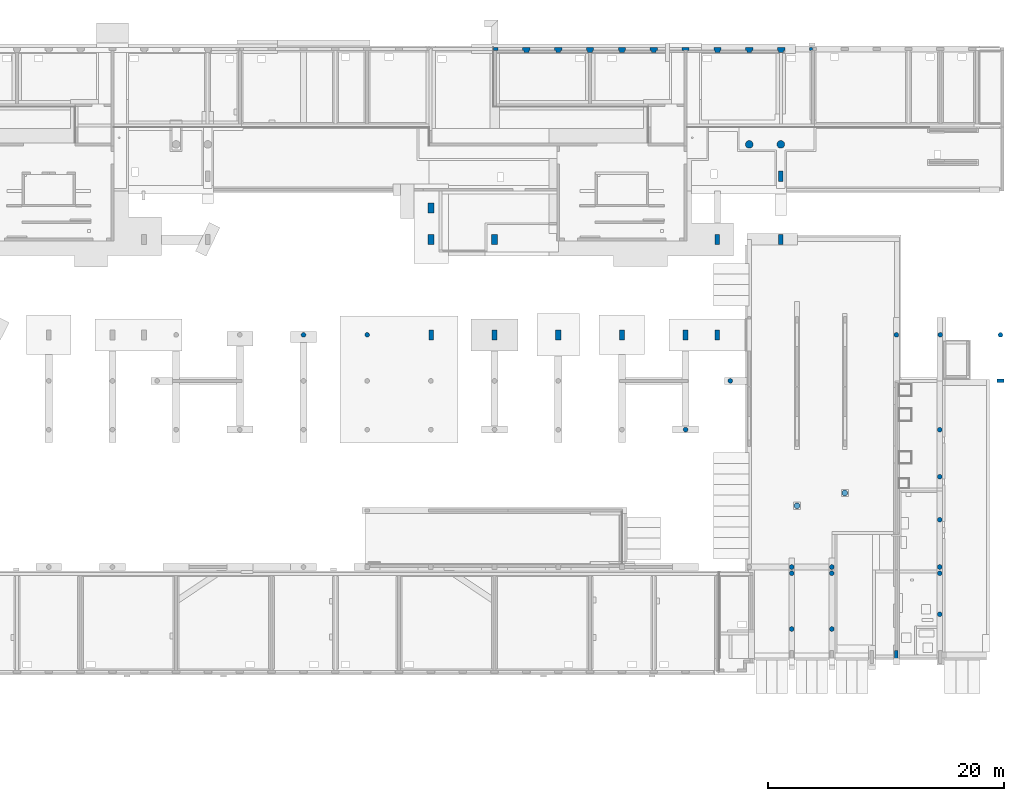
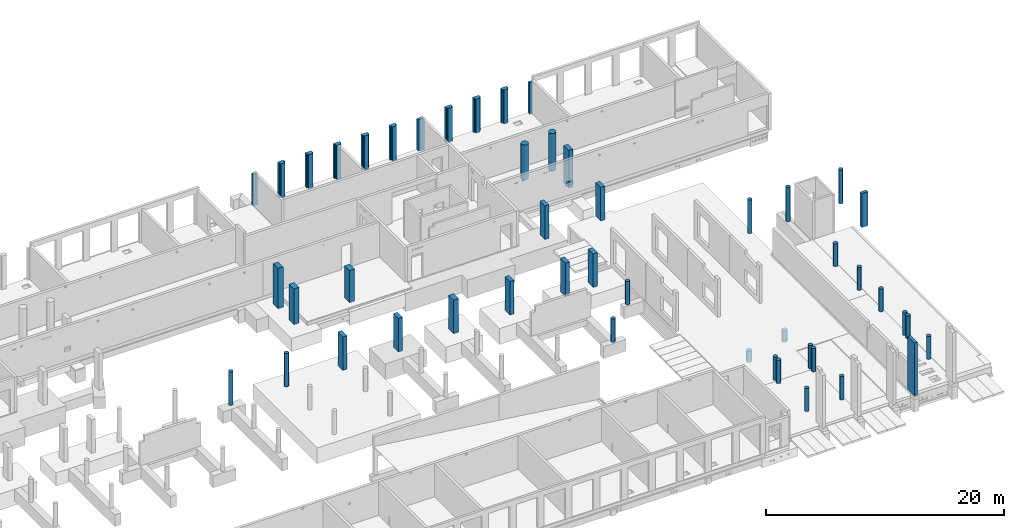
# One storey, part 15 of 60: 48 columns.
"""IFC2X3 building model written with IfcOpenShell, lengths in millimetres."""

from ifc_helpers import new_model, entity, si_unit, converted_unit, derived_unit, direction, frame, frame_2d, origin, origin_2d_with_axis, place, context, subcontext, project, spatial, polyline, rectangle, circle, outline, extrude, source, transform, mapped, material, type_object, type_shapes, element, save


model = new_model("IFC2X3")

# Units and contexts
model_context = context("Model", 3, precision=0.01, world=origin(), true_north=direction((6.12303176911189e-17, 1.0)))
body_context = subcontext(model_context, "Body", "Model", "MODEL_VIEW")
ifc_project = project(units=[si_unit("LENGTHUNIT", "METRE", prefix="MILLI"), si_unit("AREAUNIT", "SQUARE_METRE"), si_unit("VOLUMEUNIT", "CUBIC_METRE"), converted_unit("PLANEANGLEUNIT", "DEGREE", entity("IfcRatioMeasure", 0.0174532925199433), si_unit("PLANEANGLEUNIT", "RADIAN"), dimensions=[0, 0, 0, 0, 0, 0, 0]), si_unit("MASSUNIT", "GRAM", prefix="KILO"), derived_unit("MASSDENSITYUNIT", [(si_unit("MASSUNIT", "GRAM", prefix="KILO"), 1), (si_unit("LENGTHUNIT", "METRE"), -3)]), si_unit("TIMEUNIT", "SECOND"), si_unit("FREQUENCYUNIT", "HERTZ"), si_unit("THERMODYNAMICTEMPERATUREUNIT", "DEGREE_CELSIUS"), derived_unit("THERMALTRANSMITTANCEUNIT", [(si_unit("MASSUNIT", "GRAM", prefix="KILO"), 1), (si_unit("THERMODYNAMICTEMPERATUREUNIT", "KELVIN"), -1), (si_unit("TIMEUNIT", "SECOND"), -3)]), derived_unit("VOLUMETRICFLOWRATEUNIT", [(si_unit("LENGTHUNIT", "METRE"), 3), (si_unit("TIMEUNIT", "SECOND"), -1)]), si_unit("ELECTRICCURRENTUNIT", "AMPERE"), si_unit("ELECTRICVOLTAGEUNIT", "VOLT"), si_unit("POWERUNIT", "WATT"), si_unit("FORCEUNIT", "NEWTON", prefix="KILO"), si_unit("ILLUMINANCEUNIT", "LUX"), si_unit("LUMINOUSFLUXUNIT", "LUMEN"), si_unit("LUMINOUSINTENSITYUNIT", "CANDELA"), derived_unit("USERDEFINED", [(si_unit("MASSUNIT", "GRAM", prefix="KILO"), -1), (si_unit("LENGTHUNIT", "METRE"), -2), (si_unit("TIMEUNIT", "SECOND"), 3), (si_unit("LUMINOUSFLUXUNIT", "LUMEN"), 1)]), derived_unit("LINEARVELOCITYUNIT", [(si_unit("LENGTHUNIT", "METRE"), 1), (si_unit("TIMEUNIT", "SECOND"), -1)]), si_unit("PRESSUREUNIT", "PASCAL"), derived_unit("USERDEFINED", [(si_unit("LENGTHUNIT", "METRE"), -2), (si_unit("MASSUNIT", "GRAM", prefix="KILO"), 1), (si_unit("TIMEUNIT", "SECOND"), -2)])], contexts=[model_context])

# Site, building, storey
site_placement = place(None, origin())
site = spatial("IfcSite", under=ifc_project, at=site_placement, Name="Default", CompositionType="ELEMENT")
building_placement = place(site_placement, origin())
building = spatial("IfcBuilding", under=site, at=building_placement, Name="niet gebruiken", CompositionType="ELEMENT")
storey_placement = place(building_placement, origin())
storey = spatial("IfcBuildingStorey", under=building, at=storey_placement, Name="00 begane grond", CompositionType="ELEMENT", Elevation=0.0)

# Columns
ifc_material_1 = material(Name="NLRS_f2_beton prefab")
column_type_1 = type_object("IfcColumnType", Name="400x850", PredefinedType="COLUMN", material=ifc_material_1)
shared_shape_1 = source(origin(), body_context, "Body", "SweptSolid", [
    extrude(rectangle(XDim=850.0, YDim=400.0, at=origin_2d_with_axis()), frame((0.0, 0.0, -170.0), z_axis=(0.0, 0.0, 1.0), x_axis=(0.0, -1.0, 0.0)), (0.0, 0.0, 1.0), 3430.0),
])
type_shapes(column_type_1, [shared_shape_1])
for number, where, name in (
    (1, (75625.0, 28881.0, 0.0), "NLRS_28. kolom vierkant_gen:400x850"),
    (2, (81000.0, 28881.0, 0.0), "NLRS_28. kolom vierkant_gen:400x850"),
    (3, (91800.0, 28881.0, 0.0), "NLRS_28. kolom vierkant_gen:400x850"),
    (4, (97200.0, 28881.0, 0.0), "NLRS_28. kolom vierkant_gen:400x850"),
    (5, (99875.0, 28881.0, 0.0), "NLRS_28. kolom vierkant_gen:400x850"),
):
    element("IfcColumn", number, at=place(storey_placement, frame(where)), inside=storey, type_object=column_type_1, material=ifc_material_1, Name=name, ObjectType="400x850", context=body_context, shape_type="MappedRepresentation", body=[
        mapped(shared_shape_1, transform((0.0, 0.0, 0.0), scale=1.0)),
    ])
for number, where, z_axis, x_axis, name in (
    (6, (99875.0, 36981.0, 0.0), (0.0, 0.0, 1.0), (-1.0, 0.0, 0.0), "NLRS_28. kolom vierkant_gen:400x850"),
    (7, (105275.0, 36981.0, 0.0), (0.0, 0.0, 1.0), (-1.0, 0.0, 0.0), "NLRS_28. kolom vierkant_gen:400x850"),
):
    element("IfcColumn", number, at=place(storey_placement, frame(where, z_axis=z_axis, x_axis=x_axis)), inside=storey, type_object=column_type_1, material=ifc_material_1, Name=name, ObjectType="400x850", context=body_context, shape_type="MappedRepresentation", body=[
        mapped(shared_shape_1, transform((0.0, 0.0, 0.0), scale=1.0)),
    ])
column_type_2 = type_object("IfcColumnType", Name="ø400", PredefinedType="COLUMN", material=ifc_material_1)
shared_shape_2 = source(origin(), body_context, "Body", "SweptSolid", [
    extrude(circle(Radius=200.0, at=frame_2d((1.69197988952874e-14, -3.02923644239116e-13), x_axis=(1.0, 0.0))), frame((0.0, 0.0, -170.0)), (0.0, 0.0, 1.0), 2390.00000000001),
])
type_shapes(column_type_2, [shared_shape_2])
for number, where in (
    (8, (100990.0, 24976.0, 0.0)),
    (9, (97200.0, 20846.0, 0.0)),
    (10, (109600.0, 9196.0, 0.0)),
    (11, (106200.0, 9196.0, 0.0)),
):
    element("IfcColumn", number, at=place(storey_placement, frame(where)), inside=storey, type_object=column_type_2, material=ifc_material_1, Name="NLRS_28. kolom rond_gen:ø400", ObjectType="ø400", context=body_context, shape_type="MappedRepresentation", body=[
        mapped(shared_shape_2, transform((0.0, 0.0, 0.0), scale=1.0)),
    ])
column_type_3 = type_object("IfcColumnType", Name="500x850", PredefinedType="COLUMN", material=ifc_material_1)
shared_shape_3 = source(origin(), body_context, "Body", "SweptSolid", [
    extrude(rectangle(XDim=850.0, YDim=500.0, at=origin_2d_with_axis()), frame((0.0, 0.0, -170.0), z_axis=(0.0, 0.0, 1.0), x_axis=(0.0, -1.0, 0.0)), (0.0, 0.0, 1.0), 3430.0),
])
type_shapes(column_type_3, [shared_shape_3])
column_1_placement = place(storey_placement, frame((86400.0, 28881.0, 0.0)))
element("IfcColumn", 12, at=column_1_placement, inside=storey, type_object=column_type_3, material=ifc_material_1, Name="NLRS_28. kolom vierkant_gen:500x850", ObjectType="500x850", context=body_context, shape_type="MappedRepresentation", body=[
    mapped(shared_shape_3, transform((0.0, 0.0, 0.0), scale=1.0)),
])
column_type_4 = type_object("IfcColumnType", Name="500x850", PredefinedType="COLUMN", material=ifc_material_1)
shared_shape_4 = source(origin(), body_context, "Body", "SweptSolid", [
    extrude(rectangle(XDim=850.0, YDim=500.0, at=origin_2d_with_axis()), frame((0.0, 0.0, -40.0), z_axis=(0.0, 0.0, 1.0), x_axis=(0.0, -1.0, 0.0)), (0.0, 0.0, 1.0), 3300.0),
])
type_shapes(column_type_4, [shared_shape_4])
column_2_placement = place(storey_placement, frame((81000.0, 36981.0, 0.0), z_axis=(0.0, 0.0, 1.0), x_axis=(-1.0, 0.0, 0.0)))
element("IfcColumn", 13, at=column_2_placement, inside=storey, type_object=column_type_4, material=ifc_material_1, Name="NLRS_28. kolom vierkant_gen:500x850", ObjectType="500x850", context=body_context, shape_type="MappedRepresentation", body=[
    mapped(shared_shape_4, transform((0.0, 0.0, 0.0), scale=1.0)),
])
column_type_5 = type_object("IfcColumnType", Name="ø400", PredefinedType="COLUMN", material=ifc_material_1)
shared_shape_5 = source(origin(), body_context, "Body", "SweptSolid", [
    extrude(circle(Radius=200.0, at=frame_2d((1.69197988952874e-14, -3.02923644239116e-13), x_axis=(1.0, 0.0))), frame((0.0, 0.0, -170.0)), (0.0, 0.0, 1.0), 3430.0),
])
type_shapes(column_type_5, [shared_shape_5])
for number, where in (
    (14, (64800.0, 28881.0, 0.0)),
    (15, (70200.0, 28881.0, 0.0)),
    (16, (115075.0, 28881.0, 0.0)),
):
    element("IfcColumn", number, at=place(storey_placement, frame(where)), inside=storey, type_object=column_type_5, material=ifc_material_1, Name="NLRS_28. kolom rond_gen:ø400", ObjectType="ø400", context=body_context, shape_type="MappedRepresentation", body=[
        mapped(shared_shape_5, transform((0.0, 0.0, 0.0), scale=1.0)),
    ])
column_type_6 = type_object("IfcColumnType", Name="ø650", PredefinedType="COLUMN", material=ifc_material_1)
shared_shape_6 = source(origin(), body_context, "Body", "SweptSolid", [
    extrude(circle(Radius=325.0, at=frame_2d((3.38395977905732e-14, 4.90135947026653e-13), x_axis=(1.0, 0.0))), frame((0.0, 0.0, -40.0), z_axis=(0.0, 0.0, 1.0), x_axis=(-1.0, 0.0, 0.0)), (0.0, 0.0, 1.0), 3850.00000000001),
])
type_shapes(column_type_6, [shared_shape_6])
column_3_placement = place(storey_placement, frame((105275.0, 45031.0, 0.0)))
element("IfcColumn", 17, at=column_3_placement, inside=storey, type_object=column_type_6, material=ifc_material_1, Name="NLRS_28. kolom rond_gen:ø650", ObjectType="ø650", context=body_context, shape_type="MappedRepresentation", body=[
    mapped(shared_shape_6, transform((0.0, 0.0, 0.0), scale=1.0)),
])
column_type_7 = type_object("IfcColumnType", Name="ø650", PredefinedType="COLUMN", material=ifc_material_1)
shared_shape_7 = source(origin(), body_context, "Body", "SweptSolid", [
    extrude(circle(Radius=325.0, at=frame_2d((3.38395977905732e-14, 4.90135947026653e-13), x_axis=(1.0, 0.0))), frame((0.0, 0.0, -40.0), z_axis=(0.0, 0.0, 1.0), x_axis=(-1.0, 0.0, 0.0)), (0.0, 0.0, 1.0), 3600.0),
])
type_shapes(column_type_7, [shared_shape_7])
column_4_placement = place(storey_placement, frame((102600.0, 45031.0, 0.0)))
element("IfcColumn", 18, at=column_4_placement, inside=storey, type_object=column_type_7, material=ifc_material_1, Name="NLRS_28. kolom rond_gen:ø650", ObjectType="ø650", context=body_context, shape_type="MappedRepresentation", body=[
    mapped(shared_shape_7, transform((0.0, 0.0, 0.0), scale=1.0)),
])
column_type_8 = type_object("IfcColumnType", Name="ø400", PredefinedType="COLUMN", material=ifc_material_1)
shared_shape_8 = source(origin(), body_context, "Body", "SweptSolid", [
    extrude(circle(Radius=200.0, at=frame_2d((1.69197988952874e-14, -3.02923644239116e-13), x_axis=(1.0, 0.0))), frame((0.0, 0.0, -270.0)), (0.0, 0.0, 1.0), 3530.0),
])
type_shapes(column_type_8, [shared_shape_8])
column_5_placement = place(storey_placement, frame((118800.0, 28881.0, 0.0)))
element("IfcColumn", 19, at=column_5_placement, inside=storey, type_object=column_type_8, material=ifc_material_1, Name="NLRS_28. kolom rond_gen:ø400", ObjectType="ø400", context=body_context, shape_type="MappedRepresentation", body=[
    mapped(shared_shape_8, transform((0.0, 0.0, 0.0), scale=1.0)),
])
column_type_9 = type_object("IfcColumnType", Name="ø400", PredefinedType="COLUMN", material=ifc_material_1)
shared_shape_9 = source(origin(), body_context, "Body", "SweptSolid", [
    extrude(circle(Radius=200.0, at=frame_2d((1.69197988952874e-14, -3.02923644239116e-13), x_axis=(1.0, 0.0))), frame((0.0, 0.0, -220.0)), (0.0, 0.0, 1.0), 3480.0),
])
type_shapes(column_type_9, [shared_shape_9])
column_6_placement = place(storey_placement, frame((123900.0, 28881.0, 0.0)))
element("IfcColumn", 20, at=column_6_placement, inside=storey, type_object=column_type_9, material=ifc_material_1, Name="NLRS_28. kolom rond_gen:ø400", ObjectType="ø400", context=body_context, shape_type="MappedRepresentation", body=[
    mapped(shared_shape_9, transform((0.0, 0.0, 0.0), scale=1.0)),
])
ifc_material_2 = material(Name="NLRS_f2_beton ihwg")
column_type_10 = type_object("IfcColumnType", Name="620x410/105x160/105x160", PredefinedType="COLUMN", material=ifc_material_2)
shared_shape_10 = source(origin(), body_context, "Body", "SweptSolid", [
    extrude(outline(polyline([(-227.5, -310.0), (22.4999999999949, -310.0), (22.4999999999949, -205.0), (182.499999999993, -205.0), (182.499999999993, 205.0), (22.4999999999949, 205.0), (22.4999999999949, 310.0), (-227.5, 310.0), (-227.5, -310.0)])), frame((102600.0, 53028.4999999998, -160.0), z_axis=(0.0, 0.0, 1.0), x_axis=(0.0, -1.0, 0.0)), (0.0, 0.0, 1.0), 3510.00000000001),
])
type_shapes(column_type_10, [shared_shape_10])
column_7_placement = place(storey_placement, origin())
element("IfcColumn", 21, at=column_7_placement, inside=storey, type_object=column_type_10, material=ifc_material_2, Name="NLRS_28.11_SCO_TLB_beton kolom ihwg dubbele sponning_gen:620x410/105x160/105x160", ObjectType="620x410/105x160/105x160", context=body_context, shape_type="MappedRepresentation", body=[
    mapped(shared_shape_10, transform((0.0, 0.0, 0.0), scale=1.0)),
])
column_type_11 = type_object("IfcColumnType", Name="620x410/105x160/105x160", PredefinedType="COLUMN", material=ifc_material_2)
shared_shape_11 = source(origin(), body_context, "Body", "SweptSolid", [
    extrude(outline(polyline([(-227.499999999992, -310.0), (22.5000000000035, -310.0), (22.5000000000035, -205.0), (182.500000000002, -205.0), (182.500000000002, 205.0), (22.5000000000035, 205.0), (22.5000000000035, 310.0), (-227.499999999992, 310.0), (-227.499999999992, -310.0)])), frame((99900.0, 53028.4999999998, -160.0), z_axis=(0.0, 0.0, 1.0), x_axis=(0.0, -1.0, 0.0)), (0.0, 0.0, 1.0), 3510.00000000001),
])
type_shapes(column_type_11, [shared_shape_11])
column_8_placement = place(storey_placement, origin())
element("IfcColumn", 22, at=column_8_placement, inside=storey, type_object=column_type_11, material=ifc_material_2, Name="NLRS_28.11_SCO_TLB_beton kolom ihwg dubbele sponning_gen:620x410/105x160/105x160", ObjectType="620x410/105x160/105x160", context=body_context, shape_type="MappedRepresentation", body=[
    mapped(shared_shape_11, transform((0.0, 0.0, 0.0), scale=1.0)),
])
column_type_12 = type_object("IfcColumnType", Name="620x410/105x160/105x160", PredefinedType="COLUMN", material=ifc_material_2)
shared_shape_12 = source(origin(), body_context, "Body", "SweptSolid", [
    extrude(outline(polyline([(-227.499999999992, -310.0), (22.5000000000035, -310.0), (22.5000000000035, -205.0), (182.500000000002, -205.0), (182.500000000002, 205.0), (22.5000000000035, 205.0), (22.5000000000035, 310.0), (-227.499999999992, 310.0), (-227.499999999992, -310.0)])), frame((94500.0, 53028.4999999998, -160.0), z_axis=(0.0, 0.0, 1.0), x_axis=(0.0, -1.0, 0.0)), (0.0, 0.0, 1.0), 3510.00000000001),
])
type_shapes(column_type_12, [shared_shape_12])
column_9_placement = place(storey_placement, origin())
element("IfcColumn", 23, at=column_9_placement, inside=storey, type_object=column_type_12, material=ifc_material_2, Name="NLRS_28.11_SCO_TLB_beton kolom ihwg dubbele sponning_gen:620x410/105x160/105x160", ObjectType="620x410/105x160/105x160", context=body_context, shape_type="MappedRepresentation", body=[
    mapped(shared_shape_12, transform((0.0, 0.0, 0.0), scale=1.0)),
])
column_type_13 = type_object("IfcColumnType", Name="620x410/105x160/105x160", PredefinedType="COLUMN", material=ifc_material_2)
shared_shape_13 = source(origin(), body_context, "Body", "SweptSolid", [
    extrude(outline(polyline([(-227.499999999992, -310.0), (22.5000000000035, -310.0), (22.5000000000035, -205.0), (182.500000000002, -205.0), (182.500000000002, 205.0), (22.5000000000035, 205.0), (22.5000000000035, 310.0), (-227.499999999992, 310.0), (-227.499999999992, -310.0)])), frame((91800.0, 53028.4999999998, -160.0), z_axis=(0.0, 0.0, 1.0), x_axis=(0.0, -1.0, 0.0)), (0.0, 0.0, 1.0), 3510.00000000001),
])
type_shapes(column_type_13, [shared_shape_13])
column_10_placement = place(storey_placement, origin())
element("IfcColumn", 24, at=column_10_placement, inside=storey, type_object=column_type_13, material=ifc_material_2, Name="NLRS_28.11_SCO_TLB_beton kolom ihwg dubbele sponning_gen:620x410/105x160/105x160", ObjectType="620x410/105x160/105x160", context=body_context, shape_type="MappedRepresentation", body=[
    mapped(shared_shape_13, transform((0.0, 0.0, 0.0), scale=1.0)),
])
column_type_14 = type_object("IfcColumnType", Name="620x410/105x160/105x160", PredefinedType="COLUMN", material=ifc_material_2)
shared_shape_14 = source(origin(), body_context, "Body", "SweptSolid", [
    extrude(outline(polyline([(-227.499999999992, -310.0), (22.5000000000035, -310.0), (22.5000000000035, -205.0), (182.500000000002, -205.0), (182.500000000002, 205.0), (22.5000000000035, 205.0), (22.5000000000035, 310.0), (-227.499999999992, 310.0), (-227.499999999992, -310.0)])), frame((89100.0, 53028.4999999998, -160.0), z_axis=(0.0, 0.0, 1.0), x_axis=(0.0, -1.0, 0.0)), (0.0, 0.0, 1.0), 3510.00000000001),
])
type_shapes(column_type_14, [shared_shape_14])
column_11_placement = place(storey_placement, origin())
element("IfcColumn", 25, at=column_11_placement, inside=storey, type_object=column_type_14, material=ifc_material_2, Name="NLRS_28.11_SCO_TLB_beton kolom ihwg dubbele sponning_gen:620x410/105x160/105x160", ObjectType="620x410/105x160/105x160", context=body_context, shape_type="MappedRepresentation", body=[
    mapped(shared_shape_14, transform((0.0, 0.0, 0.0), scale=1.0)),
])
column_type_15 = type_object("IfcColumnType", Name="620x410/105x160/105x160", PredefinedType="COLUMN", material=ifc_material_2)
shared_shape_15 = source(origin(), body_context, "Body", "SweptSolid", [
    extrude(outline(polyline([(-227.5, -310.0), (22.4999999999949, -310.0), (22.4999999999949, -205.0), (182.499999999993, -205.0), (182.499999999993, 205.0), (22.4999999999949, 205.0), (22.4999999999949, 310.0), (-227.5, 310.0), (-227.5, -310.0)])), frame((83700.0, 53028.4999999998, -160.0), z_axis=(0.0, 0.0, 1.0), x_axis=(0.0, -1.0, 0.0)), (0.0, 0.0, 1.0), 3510.00000000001),
])
type_shapes(column_type_15, [shared_shape_15])
column_12_placement = place(storey_placement, origin())
element("IfcColumn", 26, at=column_12_placement, inside=storey, type_object=column_type_15, material=ifc_material_2, Name="NLRS_28.11_SCO_TLB_beton kolom ihwg dubbele sponning_gen:620x410/105x160/105x160", ObjectType="620x410/105x160/105x160", context=body_context, shape_type="MappedRepresentation", body=[
    mapped(shared_shape_15, transform((0.0, 0.0, 0.0), scale=1.0)),
])
column_type_16 = type_object("IfcColumnType", Name="620x410/105x160/105x160", PredefinedType="COLUMN", material=ifc_material_2)
shared_shape_16 = source(origin(), body_context, "Body", "SweptSolid", [
    extrude(outline(polyline([(-227.5, -310.0), (22.4999999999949, -310.0), (22.4999999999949, -205.0), (182.499999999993, -205.0), (182.499999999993, 205.0), (22.4999999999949, 205.0), (22.4999999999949, 310.0), (-227.5, 310.0), (-227.5, -310.0)])), frame((105300.0, 53028.4999999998, -160.0), z_axis=(0.0, 0.0, 1.0), x_axis=(0.0, -1.0, 0.0)), (0.0, 0.0, 1.0), 3510.00000000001),
])
type_shapes(column_type_16, [shared_shape_16])
column_13_placement = place(storey_placement, origin())
element("IfcColumn", 27, at=column_13_placement, inside=storey, type_object=column_type_16, material=ifc_material_2, Name="NLRS_28.11_SCO_TLB_beton kolom ihwg dubbele sponning_gen:620x410/105x160/105x160", ObjectType="620x410/105x160/105x160", context=body_context, shape_type="MappedRepresentation", body=[
    mapped(shared_shape_16, transform((0.0, 0.0, 0.0), scale=1.0)),
])
column_type_17 = type_object("IfcColumnType", Name="410x250", PredefinedType="COLUMN", material=ifc_material_2)
shared_shape_17 = source(origin(), body_context, "Body", "SweptSolid", [
    extrude(rectangle(XDim=250.000000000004, YDim=409.999999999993, at=origin_2d_with_axis()), frame((81105.0, 53131.0, -160.0), z_axis=(0.0, 0.0, 1.0), x_axis=(0.0, -1.0, 0.0)), (0.0, 0.0, 1.0), 3230.00000000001),
])
type_shapes(column_type_17, [shared_shape_17])
column_14_placement = place(storey_placement, origin())
element("IfcColumn", 28, at=column_14_placement, inside=storey, type_object=column_type_17, material=ifc_material_2, Name="NLRS_28.11_SCO_TLB_beton kolom ihwg_gen:410x250", ObjectType="410x250", context=body_context, shape_type="MappedRepresentation", body=[
    mapped(shared_shape_17, transform((0.0, 0.0, 0.0), scale=1.0)),
])
column_type_18 = type_object("IfcColumnType", Name="620x250", PredefinedType="COLUMN", material=ifc_material_2)
shared_shape_18 = source(origin(), body_context, "Body", "SweptSolid", [
    extrude(rectangle(XDim=250.000000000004, YDim=619.999999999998, at=frame_2d((8.66151594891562e-12, 0.0), x_axis=(1.0, 0.0))), frame((97200.0, 53131.0, -160.0), z_axis=(0.0, 0.0, 1.0), x_axis=(0.0, -1.0, 0.0)), (0.0, 0.0, 1.0), 3230.00000000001),
])
type_shapes(column_type_18, [shared_shape_18])
column_15_placement = place(storey_placement, origin())
element("IfcColumn", 29, at=column_15_placement, inside=storey, type_object=column_type_18, material=ifc_material_2, Name="NLRS_28.11_SCO_TLB_beton kolom ihwg_gen:620x250", ObjectType="620x250", context=body_context, shape_type="MappedRepresentation", body=[
    mapped(shared_shape_18, transform((0.0, 0.0, 0.0), scale=1.0)),
])
column_type_19 = type_object("IfcColumnType", Name="620x410/105x160/105x160", PredefinedType="COLUMN", material=ifc_material_2)
shared_shape_19 = source(origin(), body_context, "Body", "SweptSolid", [
    extrude(outline(polyline([(-227.499999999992, -310.0), (22.5000000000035, -310.0), (22.5000000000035, -205.0), (182.500000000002, -205.0), (182.500000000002, 205.0), (22.5000000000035, 205.0), (22.5000000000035, 310.0), (-227.499999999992, 310.0), (-227.499999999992, -310.0)])), frame((86400.0, 53028.4999999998, -160.0), z_axis=(0.0, 0.0, 1.0), x_axis=(0.0, -1.0, 0.0)), (0.0, 0.0, 1.0), 3510.00000000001),
])
type_shapes(column_type_19, [shared_shape_19])
column_16_placement = place(storey_placement, origin())
element("IfcColumn", 30, at=column_16_placement, inside=storey, type_object=column_type_19, material=ifc_material_2, Name="NLRS_28.11_SCO_TLB_beton kolom ihwg dubbele sponning_gen:620x410/105x160/105x160", ObjectType="620x410/105x160/105x160", context=body_context, shape_type="MappedRepresentation", body=[
    mapped(shared_shape_19, transform((0.0, 0.0, 0.0), scale=1.0)),
])
column_type_20 = type_object("IfcColumnType", Name="300x600", PredefinedType="COLUMN", material=ifc_material_1)
shared_shape_20 = source(origin(), body_context, "Body", "SweptSolid", [
    extrude(rectangle(XDim=600.0, YDim=300.0, at=origin_2d_with_axis()), frame((0.0, 0.0, -220.0), z_axis=(0.0, 0.0, 1.0), x_axis=(0.0, -1.0, 0.0)), (0.0, 0.0, 1.0), 3480.0),
])
type_shapes(column_type_20, [shared_shape_20])
column_17_placement = place(storey_placement, frame((123900.0, 24976.0, 0.0), z_axis=(0.0, 0.0, 1.0), x_axis=(0.0, -1.0, 0.0)))
element("IfcColumn", 31, at=column_17_placement, inside=storey, type_object=column_type_20, material=ifc_material_1, Name="NLRS_28. kolom vierkant_gen1:300x600", ObjectType="300x600", context=body_context, shape_type="MappedRepresentation", body=[
    mapped(shared_shape_20, transform((0.0, 0.0, 0.0), scale=1.0)),
])
column_type_21 = type_object("IfcColumnType", Name="500x850", PredefinedType="COLUMN", material=ifc_material_1)
shared_shape_21 = source(origin(), body_context, "Body", "SweptSolid", [
    extrude(rectangle(XDim=850.0, YDim=500.0, at=origin_2d_with_axis()), frame((0.0, 0.0, -372.0), z_axis=(0.0, 0.0, 1.0), x_axis=(0.0, -1.0, 0.0)), (0.0, 0.0, 1.0), 3632.0),
])
type_shapes(column_type_21, [shared_shape_21])
column_18_placement = place(storey_placement, frame((75625.0, 36981.0, 0.0), z_axis=(0.0, 0.0, 1.0), x_axis=(-1.0, 0.0, 0.0)))
element("IfcColumn", 32, at=column_18_placement, inside=storey, type_object=column_type_21, material=ifc_material_1, Name="NLRS_28. kolom vierkant_gen:500x850", ObjectType="500x850", context=body_context, shape_type="MappedRepresentation", body=[
    mapped(shared_shape_21, transform((0.0, 0.0, 0.0), scale=1.0)),
])
column_type_22 = type_object("IfcColumnType", Name="400x850", PredefinedType="COLUMN", material=ifc_material_1)
shared_shape_22 = source(origin(), body_context, "Body", "SweptSolid", [
    extrude(rectangle(XDim=850.0, YDim=400.0, at=origin_2d_with_axis()), frame((0.0, 0.0, -40.0), z_axis=(0.0, 0.0, 1.0), x_axis=(0.0, -1.0, 0.0)), (0.0, 0.0, 1.0), 3850.00000000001),
])
type_shapes(column_type_22, [shared_shape_22])
column_19_placement = place(storey_placement, frame((105275.0, 42331.0, 0.0), z_axis=(0.0, 0.0, 1.0), x_axis=(-1.0, 0.0, 0.0)))
element("IfcColumn", 33, at=column_19_placement, inside=storey, type_object=column_type_22, material=ifc_material_1, Name="NLRS_28. kolom vierkant_gen:400x850", ObjectType="400x850", context=body_context, shape_type="MappedRepresentation", body=[
    mapped(shared_shape_22, transform((0.0, 0.0, 0.0), scale=1.0)),
])
column_type_23 = type_object("IfcColumnType", Name="500x850", PredefinedType="COLUMN", material=ifc_material_1)
shared_shape_23 = source(origin(), body_context, "Body", "SweptSolid", [
    extrude(rectangle(XDim=850.0, YDim=500.0, at=origin_2d_with_axis()), frame((0.0, 0.0, -372.0), z_axis=(0.0, 0.0, 1.0), x_axis=(0.0, -1.0, 0.0)), (0.0, 0.0, 1.0), 4112.0),
])
type_shapes(column_type_23, [shared_shape_23])
column_20_placement = place(storey_placement, frame((75625.0, 39656.0, 0.0), z_axis=(0.0, 0.0, 1.0), x_axis=(-1.0, 0.0, 0.0)))
element("IfcColumn", 34, at=column_20_placement, inside=storey, type_object=column_type_23, material=ifc_material_1, Name="NLRS_28. kolom vierkant_gen:500x850", ObjectType="500x850", context=body_context, shape_type="MappedRepresentation", body=[
    mapped(shared_shape_23, transform((0.0, 0.0, 0.0), scale=1.0)),
])
column_type_24 = type_object("IfcColumnType", Name="ø400", PredefinedType="COLUMN", material=ifc_material_1)
shared_shape_24 = source(origin(), body_context, "Body", "SweptSolid", [
    extrude(circle(Radius=199.999999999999, at=frame_2d((-5.41433564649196e-13, 0.0), x_axis=(1.0, 0.0))), frame((106200.0, 3940.0, -170.0), z_axis=(0.0, 0.0, 1.0), x_axis=(0.0, -1.0, 0.0)), (0.0, 0.0, 1.0), 2360.0),
])
type_shapes(column_type_24, [shared_shape_24])
column_21_placement = place(storey_placement, origin())
element("IfcColumn", 35, at=column_21_placement, inside=storey, type_object=column_type_24, material=ifc_material_1, Name="NLRS_28. kolom rond_gen:ø400", ObjectType="ø400", context=body_context, shape_type="MappedRepresentation", body=[
    mapped(shared_shape_24, transform((0.0, 0.0, 0.0), scale=1.0)),
])
column_type_25 = type_object("IfcColumnType", Name="ø400", PredefinedType="COLUMN", material=ifc_material_1)
shared_shape_25 = source(origin(), body_context, "Body", "SweptSolid", [
    extrude(circle(Radius=199.999999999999, at=frame_2d((-5.41433564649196e-13, 0.0), x_axis=(1.0, 0.0))), frame((109600.0, 3940.0, -170.0), z_axis=(0.0, 0.0, 1.0), x_axis=(0.0, -1.0, 0.0)), (0.0, 0.0, 1.0), 2390.00000000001),
])
type_shapes(column_type_25, [shared_shape_25])
column_22_placement = place(storey_placement, origin())
element("IfcColumn", 36, at=column_22_placement, inside=storey, type_object=column_type_25, material=ifc_material_1, Name="NLRS_28. kolom rond_gen:ø400", ObjectType="ø400", context=body_context, shape_type="MappedRepresentation", body=[
    mapped(shared_shape_25, transform((0.0, 0.0, 0.0), scale=1.0)),
])
column_type_26 = type_object("IfcColumnType", Name="300x1100", PredefinedType="COLUMN", material=ifc_material_1)
shared_shape_26 = source(origin(), body_context, "Body", "SweptSolid", [
    extrude(rectangle(XDim=1100.0, YDim=300.000000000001, at=frame_2d((-1.70530256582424e-13, 0.0), x_axis=(1.0, 0.0))), frame((115075.0, 1550.0, 30.0), z_axis=(0.0, 0.0, 1.0), x_axis=(0.0, -1.0, 0.0)), (0.0, 0.0, 1.0), 5420.0),
])
type_shapes(column_type_26, [shared_shape_26])
column_23_placement = place(storey_placement, origin())
element("IfcColumn", 37, at=column_23_placement, inside=storey, type_object=column_type_26, material=ifc_material_1, Name="NLRS_28. kolom vierkant_gen1:300x1100", ObjectType="300x1100", context=body_context, shape_type="MappedRepresentation", body=[
    mapped(shared_shape_26, transform((0.0, 0.0, 0.0), scale=1.0)),
])
column_type_27 = type_object("IfcColumnType", Name="ø400", PredefinedType="COLUMN", material=ifc_material_1)
shared_shape_27 = source(origin(), body_context, "Body", "SweptSolid", [
    extrude(circle(Radius=199.999999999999, at=origin_2d_with_axis()), frame((109600.0, 8671.0, -170.0), z_axis=(0.0, 0.0, 1.0), x_axis=(0.0, -1.0, 0.0)), (0.0, 0.0, 1.0), 2390.00000000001),
])
type_shapes(column_type_27, [shared_shape_27])
column_24_placement = place(storey_placement, origin())
element("IfcColumn", 38, at=column_24_placement, inside=storey, type_object=column_type_27, material=ifc_material_1, Name="NLRS_28. kolom rond_gen:ø400", ObjectType="ø400", context=body_context, shape_type="MappedRepresentation", body=[
    mapped(shared_shape_27, transform((0.0, 0.0, 0.0), scale=1.0)),
])
column_type_28 = type_object("IfcColumnType", Name="ø400", PredefinedType="COLUMN", material=ifc_material_1)
shared_shape_28 = source(origin(), body_context, "Body", "SweptSolid", [
    extrude(circle(Radius=199.999999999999, at=origin_2d_with_axis()), frame((106200.0, 8671.0, -170.0), z_axis=(0.0, 0.0, 1.0), x_axis=(0.0, -1.0, 0.0)), (0.0, 0.0, 1.0), 2390.00000000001),
])
type_shapes(column_type_28, [shared_shape_28])
column_25_placement = place(storey_placement, origin())
element("IfcColumn", 39, at=column_25_placement, inside=storey, type_object=column_type_28, material=ifc_material_1, Name="NLRS_28. kolom rond_gen:ø400", ObjectType="ø400", context=body_context, shape_type="MappedRepresentation", body=[
    mapped(shared_shape_28, transform((0.0, 0.0, 0.0), scale=1.0)),
])
column_type_29 = type_object("IfcColumnType", Name="ø400", PredefinedType="COLUMN", material=ifc_material_1)
shared_shape_29 = source(origin(), body_context, "Body", "SweptSolid", [
    extrude(circle(Radius=199.999999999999, at=origin_2d_with_axis()), frame((118750.0, 8671.0, 30.0), z_axis=(0.0, 0.0, 1.0), x_axis=(0.0, -1.0, 0.0)), (0.0, 0.0, 1.0), 2335.00000000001),
])
type_shapes(column_type_29, [shared_shape_29])
column_26_placement = place(storey_placement, origin())
element("IfcColumn", 40, at=column_26_placement, inside=storey, type_object=column_type_29, material=ifc_material_1, Name="NLRS_28. kolom rond_gen:ø400", ObjectType="ø400", context=body_context, shape_type="MappedRepresentation", body=[
    mapped(shared_shape_29, transform((0.0, 0.0, 0.0), scale=1.0)),
])
column_type_30 = type_object("IfcColumnType", Name="ø400", PredefinedType="COLUMN", material=ifc_material_1)
shared_shape_30 = source(origin(), body_context, "Body", "SweptSolid", [
    extrude(circle(Radius=199.999999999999, at=origin_2d_with_axis()), frame((118750.0, 9196.0, 30.0), z_axis=(0.0, 0.0, 1.0), x_axis=(0.0, -1.0, 0.0)), (0.0, 0.0, 1.0), 2335.00000000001),
])
type_shapes(column_type_30, [shared_shape_30])
column_27_placement = place(storey_placement, origin())
element("IfcColumn", 41, at=column_27_placement, inside=storey, type_object=column_type_30, material=ifc_material_1, Name="NLRS_28. kolom rond_gen:ø400", ObjectType="ø400", context=body_context, shape_type="MappedRepresentation", body=[
    mapped(shared_shape_30, transform((0.0, 0.0, 0.0), scale=1.0)),
])
column_type_31 = type_object("IfcColumnType", Name="ø400", PredefinedType="COLUMN", material=ifc_material_1)
shared_shape_31 = source(origin(), body_context, "Body", "SweptSolid", [
    extrude(circle(Radius=199.999999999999, at=origin_2d_with_axis()), frame((118750.0, 5196.0, 30.0), z_axis=(0.0, 0.0, 1.0), x_axis=(0.0, -1.0, 0.0)), (0.0, 0.0, 1.0), 2335.00000000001),
])
type_shapes(column_type_31, [shared_shape_31])
column_28_placement = place(storey_placement, origin())
element("IfcColumn", 42, at=column_28_placement, inside=storey, type_object=column_type_31, material=ifc_material_1, Name="NLRS_28. kolom rond_gen:ø400", ObjectType="ø400", context=body_context, shape_type="MappedRepresentation", body=[
    mapped(shared_shape_31, transform((0.0, 0.0, 0.0), scale=1.0)),
])
column_type_32 = type_object("IfcColumnType", Name="ø400", PredefinedType="COLUMN", material=ifc_material_1)
shared_shape_32 = source(origin(), body_context, "Body", "SweptSolid", [
    extrude(circle(Radius=199.999999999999, at=origin_2d_with_axis()), frame((118750.0, 13196.0, 30.0), z_axis=(0.0, 0.0, 1.0), x_axis=(0.0, -1.0, 0.0)), (0.0, 0.0, 1.0), 2335.00000000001),
])
type_shapes(column_type_32, [shared_shape_32])
column_29_placement = place(storey_placement, origin())
element("IfcColumn", 43, at=column_29_placement, inside=storey, type_object=column_type_32, material=ifc_material_1, Name="NLRS_28. kolom rond_gen:ø400", ObjectType="ø400", context=body_context, shape_type="MappedRepresentation", body=[
    mapped(shared_shape_32, transform((0.0, 0.0, 0.0), scale=1.0)),
])
column_type_33 = type_object("IfcColumnType", Name="ø400", PredefinedType="COLUMN", material=ifc_material_1)
shared_shape_33 = source(origin(), body_context, "Body", "SweptSolid", [
    extrude(circle(Radius=199.999999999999, at=origin_2d_with_axis()), frame((118750.0, 16846.0, 30.0), z_axis=(0.0, 0.0, 1.0), x_axis=(0.0, -1.0, 0.0)), (0.0, 0.0, 1.0), 2335.00000000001),
])
type_shapes(column_type_33, [shared_shape_33])
column_30_placement = place(storey_placement, origin())
element("IfcColumn", 44, at=column_30_placement, inside=storey, type_object=column_type_33, material=ifc_material_1, Name="NLRS_28. kolom rond_gen:ø400", ObjectType="ø400", context=body_context, shape_type="MappedRepresentation", body=[
    mapped(shared_shape_33, transform((0.0, 0.0, 0.0), scale=1.0)),
])
column_type_34 = type_object("IfcColumnType", Name="ø400", PredefinedType="COLUMN", material=ifc_material_1)
shared_shape_34 = source(origin(), body_context, "Body", "SweptSolid", [
    extrude(circle(Radius=199.999999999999, at=origin_2d_with_axis()), frame((118750.0, 20846.0, 30.0), z_axis=(0.0, 0.0, 1.0), x_axis=(0.0, -1.0, 0.0)), (0.0, 0.0, 1.0), 2335.00000000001),
])
type_shapes(column_type_34, [shared_shape_34])
column_31_placement = place(storey_placement, origin())
element("IfcColumn", 45, at=column_31_placement, inside=storey, type_object=column_type_34, material=ifc_material_1, Name="NLRS_28. kolom rond_gen:ø400", ObjectType="ø400", context=body_context, shape_type="MappedRepresentation", body=[
    mapped(shared_shape_34, transform((0.0, 0.0, 0.0), scale=1.0)),
])
column_type_35 = type_object("IfcColumnType", Name="ø500", PredefinedType="COLUMN", material=ifc_material_2)
shared_shape_35 = source(origin(), body_context, "Body", "SweptSolid", [
    extrude(circle(Radius=249.999999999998, at=frame_2d((-7.50464780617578e-26, 4.33146851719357e-12), x_axis=(1.0, 0.0))), frame((106650.0, 14391.0, -1600.0)), (0.0, 0.0, 1.0), 1150.0),
])
type_shapes(column_type_35, [shared_shape_35])
column_32_placement = place(storey_placement, origin())
element("IfcColumn", 46, at=column_32_placement, inside=storey, type_object=column_type_35, material=ifc_material_2, Name="NLRS_28.11_SCO_TLB_beton kolom ihwg rond_gen:ø500", ObjectType="ø500", context=body_context, shape_type="MappedRepresentation", body=[
    mapped(shared_shape_35, transform((0.0, 0.0, 0.0), scale=1.0)),
])
column_type_36 = type_object("IfcColumnType", Name="ø500", PredefinedType="COLUMN", material=ifc_material_2)
shared_shape_36 = source(origin(), body_context, "Body", "SweptSolid", [
    extrude(circle(Radius=249.999999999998, at=frame_2d((-7.50464780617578e-26, 4.33146851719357e-12), x_axis=(1.0, 0.0))), frame((110700.0, 15476.0, -1600.0)), (0.0, 0.0, 1.0), 1150.0),
])
type_shapes(column_type_36, [shared_shape_36])
column_33_placement = place(storey_placement, origin())
element("IfcColumn", 47, at=column_33_placement, inside=storey, type_object=column_type_36, material=ifc_material_2, Name="NLRS_28.11_SCO_TLB_beton kolom ihwg rond_gen:ø500", ObjectType="ø500", context=body_context, shape_type="MappedRepresentation", body=[
    mapped(shared_shape_36, transform((0.0, 0.0, 0.0), scale=1.0)),
])
column_type_37 = type_object("IfcColumnType", Name="290x250", PredefinedType="COLUMN", material=ifc_material_2)
shared_shape_37 = source(origin(), body_context, "Body", "SweptSolid", [
    extrude(rectangle(XDim=250.000000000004, YDim=290.000000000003, at=frame_2d((-8.66151594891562e-12, 0.0), x_axis=(1.0, 0.0))), frame((107835.0, 53131.0, -160.0), z_axis=(0.0, 0.0, 1.0), x_axis=(0.0, -1.0, 0.0)), (0.0, 0.0, 1.0), 3230.00000000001),
])
type_shapes(column_type_37, [shared_shape_37])
column_34_placement = place(storey_placement, origin())
element("IfcColumn", 48, at=column_34_placement, inside=storey, type_object=column_type_37, material=ifc_material_2, Name="NLRS_28.11_SCO_TLB_beton kolom ihwg_gen:290x250", ObjectType="290x250", context=body_context, shape_type="MappedRepresentation", body=[
    mapped(shared_shape_37, transform((0.0, 0.0, 0.0), scale=1.0)),
])

save(model, "model.ifc")
